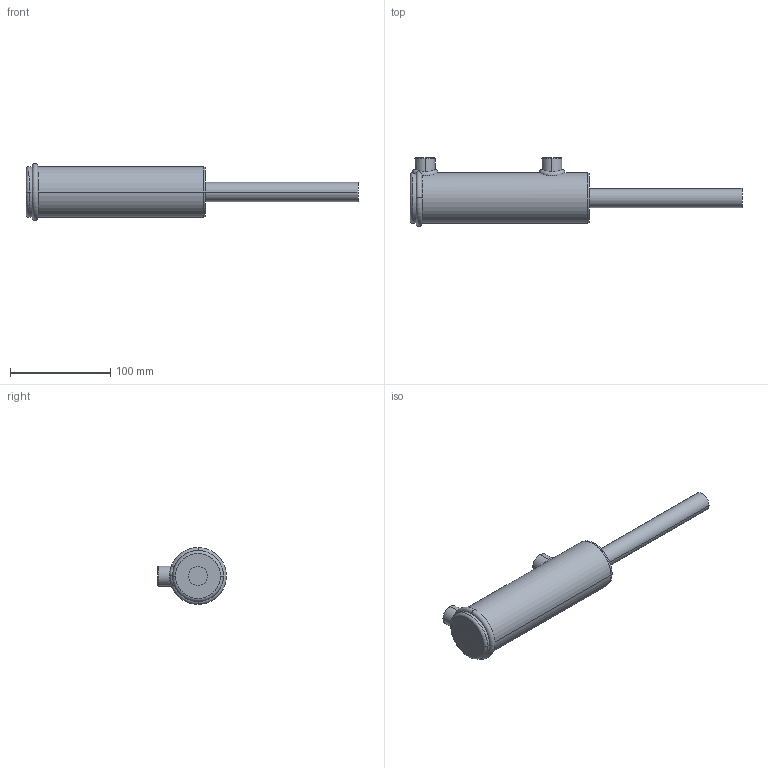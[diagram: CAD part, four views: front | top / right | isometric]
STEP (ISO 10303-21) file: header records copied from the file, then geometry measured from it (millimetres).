
FILE_DESCRIPTION (( 'STEP AP203' ), '1' );
FILE_NAME ('BL150075x102(4) extended.STEP', '2014-11-23T02:14:35', ( '' ), ( '' ), 'SwSTEP 2.0', 'SolidWorks 2014', '' );
FILE_SCHEMA (( 'CONFIG_CONTROL_DESIGN' ));
Length unit declared in the file: millimetre
Products named in the file (1): BL150075x102(4) extended
Bounding box: 332 x 68.8 x 56.8 mm (x, y, z)
Volume: 360899.4 mm3; surface area: 57684.1 mm2
Topology: 2 solids, 2 shells, 64 faces, 146 edges, 90 vertices
Faces by surface type: cylinder 20, torus 16, plane 12, bspline 8, cone 8
Entity records: 4329 total; most frequent: CARTESIAN_POINT 2883, DIRECTION 288, ORIENTED_EDGE 284, EDGE_CURVE 142, AXIS2_PLACEMENT_3D 130, VERTEX_POINT 90, CIRCLE 73, EDGE_LOOP 72
